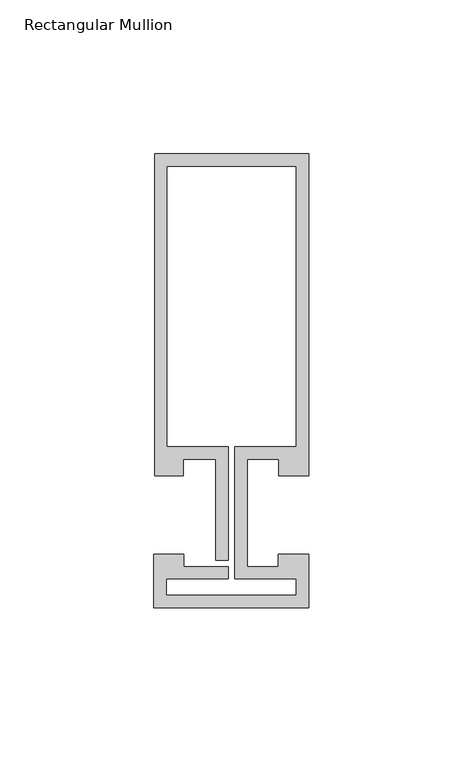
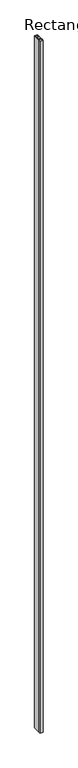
"""IFC4 building model written with IfcOpenShell, lengths in millimetres: member geometry, Rectangular Mullion : Reynaers_CW-50_Transom-Transom_104.5mm_Facecap-02B."""

from ifc_helpers import new_model, si_unit, frame, origin, place, context, project, spatial, polyline, outline, extrude, source, transform, mapped, element, save


def rectangular_mullion_f53bd028(model_context):
    return source(origin(), model_context, "Body", "SweptSolid", [
        extrude(outline(polyline([(25.1995941, -12.7331291), (25.1995941, -30.0331291), (-24.994845, -30.0331291), (-24.994845, -12.7331291), (-15.2996495, -12.7331291), (-15.2996495, -16.7331291), (-0.9004059, -16.7331291), (-0.9004059, -20.7331291), (-20.994845, -20.7331291), (-20.994845, -26.0331291), (21.1995941, -26.0331291), (21.1995941, -20.7331291), (1.2995941, -20.7331291), (1.2995941, 22.1331291), (21.1995941, 22.1331291), (21.1995941, 113.2331291), (-20.8004059, 113.2331291), (-20.8004059, 22.1331291), (-0.9004059, 22.1331291), (-0.9004059, -14.7331291), (-4.9004059, -14.7331291), (-4.9004059, 18.1331291), (-15.499, 18.1331291), (-15.499, 12.7331291), (-24.8004059, 12.7331291), (-24.8004059, 117.2331291), (25.1995941, 117.2331291), (25.1995941, 12.7331291), (15.499, 12.7331291), (15.499, 18.1331291), (5.2995941, 18.1331291), (5.2995941, -16.7331291), (15.2996495, -16.7331291), (15.2996495, -12.7331291), (25.1995941, -12.7331291)])), frame((0.0, 0.0, -12000.0), z_axis=(0.0, 0.0, 1.0), x_axis=(1.0, 0.0, 0.0)), (0.0, 0.0, 1.0), 12000.0),
    ])


if __name__ == "__main__":
    model = new_model("IFC4")
    model_context = context("Model", 3, world=origin())
    ifc_project = project(units=[si_unit("LENGTHUNIT", "METRE", prefix="MILLI")], contexts=[model_context])
    site = spatial("IfcSite", under=ifc_project)
    building = spatial("IfcBuilding", under=site)
    placement = place(None, origin())
    rectangular_mullion_shape = rectangular_mullion_f53bd028(model_context)
    element("IfcMember", 1, ObjectType="Rectangular Mullion : Reynaers_CW-50_Transom-Transom_104.5mm_Facecap-02B", at=placement, inside=building, context=model_context, shape_type="MappedRepresentation", body=[
        mapped(rectangular_mullion_shape, transform((0.0, 0.0, 0.0), x_axis=(1.0, 0.0, 0.0), y_axis=(0.0, 1.0, 0.0), z_axis=(0.0, 0.0, 1.0))),
    ])
    save(model, "model.ifc")
